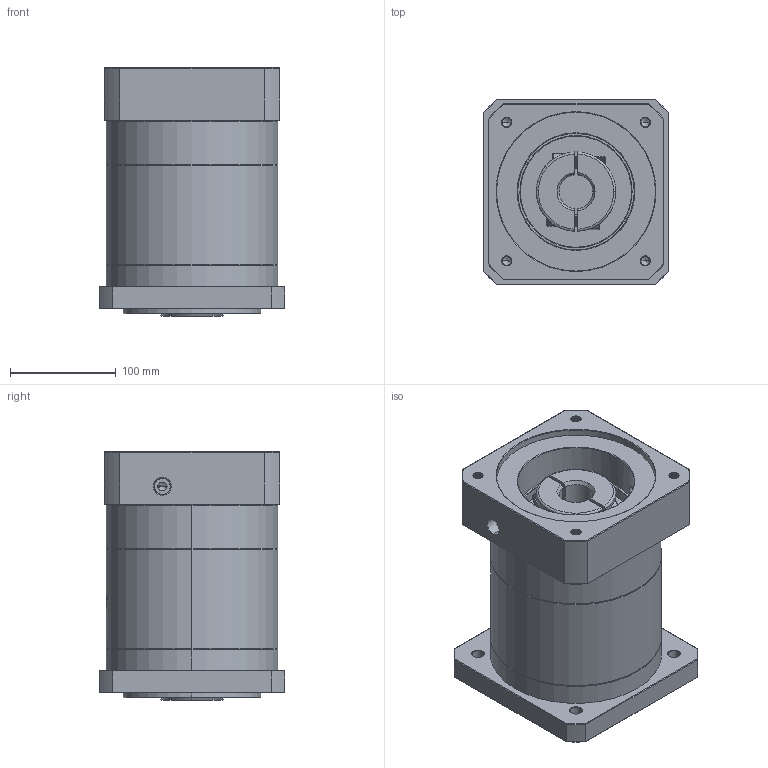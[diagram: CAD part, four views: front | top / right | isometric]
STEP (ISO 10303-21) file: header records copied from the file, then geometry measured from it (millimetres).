
FILE_DESCRIPTION (( 'STEP AP214' ), '1' );
FILE_NAME ('ZF160A-K35-L2-P2-32-150-185-M10.step', '2023-09-03T07:03:00', ( '' ), ( '' ), 'SwSTEP 2.0', 'SolidWorks 2016', '' );
FILE_SCHEMA (( 'AUTOMOTIVE_DESIGN' ));
Length unit declared in the file: millimetre
Products named in the file (1): ZF160A-K35-L2-P2-32-150-185-M10
Bounding box: 175 x 175 x 234.2 mm (x, y, z)
Volume: 4708399.8 mm3; surface area: 343277.9 mm2
Topology: 6 solids, 6 shells, 2146 faces, 5808 edges, 3766 vertices
Faces by surface type: plane 1010, bspline 404, cylinder 392, cone 320, torus 20
Entity records: 118942 total; most frequent: CARTESIAN_POINT 46300, ORIENTED_EDGE 11560, DIRECTION 8451, EDGE_CURVE 5780, VERTEX_POINT 3766, VECTOR 3013, LINE 3013, AXIS2_PLACEMENT_3D 2719
